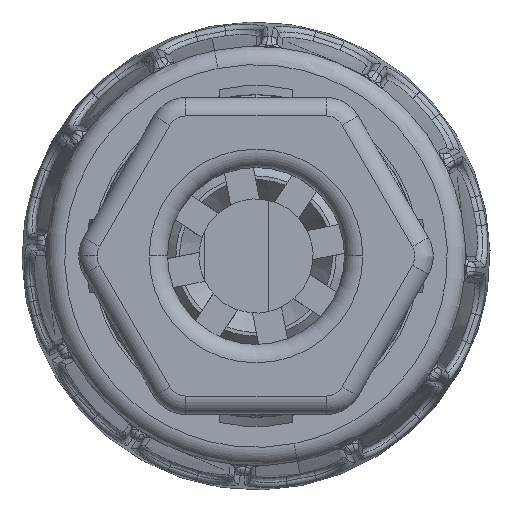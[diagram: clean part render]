
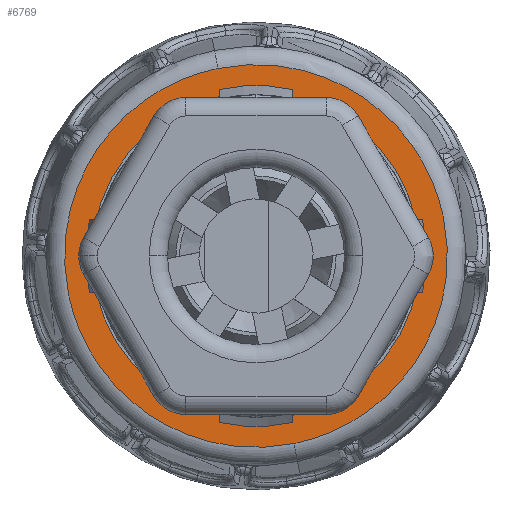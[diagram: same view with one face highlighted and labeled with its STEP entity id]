
A CAD part, left-side view. The second image highlights one B-rep face of the part: STEP entity #6769.
In plain terms, the highlighted planar face has unit normal (-1, 0, 0) as drawn and (0, 0, 1) by its records, which use the part's own axes.
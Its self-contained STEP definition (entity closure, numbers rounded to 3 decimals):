
#1250 = EDGE_LOOP ( 'NONE', ( #34648, #34607, #34660, #34673 ) ) ;
#1260 = EDGE_LOOP ( 'NONE', ( #34687, #34638 ) ) ;
#1729 = FACE_BOUND ( 'NONE', #1260, .T. ) ;
#1736 = FACE_OUTER_BOUND ( 'NONE', #1250, .T. ) ;
#2484 = AXIS2_PLACEMENT_3D ( 'NONE', #2889, #2894, #2895 ) ;
#2889 = CARTESIAN_POINT ( 'NONE',  ( 23.77, 5.16, 22.55 ) ) ;
#2892 = PLANE ( 'NONE',  #2484 ) ;
#2894 = DIRECTION ( 'NONE',  ( 0., 0., 1. ) ) ;
#2895 = DIRECTION ( 'NONE',  ( -0.447, 0.894, 0. ) ) ;
#6769 = ADVANCED_FACE ( 'NONE', ( #1729, #1736 ), #2892, .T. ) ;
#13617 = CIRCLE ( 'NONE', #15535, 8.9 ) ;
#15225 = EDGE_CURVE ( 'NONE', #24184, #24186, #13617, .T. ) ;
#15410 = EDGE_CURVE ( 'NONE', #24400, #24404, #35258, .T. ) ;
#15412 = EDGE_CURVE ( 'NONE', #24404, #24406, #35148, .T. ) ;
#15536 = EDGE_CURVE ( 'NONE', #24186, #24184, #26810, .T. ) ;
#15535 = AXIS2_PLACEMENT_3D ( 'NONE', #23722, #23723, #23724 ) ;
#15538 = EDGE_CURVE ( 'NONE', #24484, #24400, #34738, .T. ) ;
#15540 = EDGE_CURVE ( 'NONE', #24406, #24484, #35199, .T. ) ;
#15711 = AXIS2_PLACEMENT_3D ( 'NONE', #27971, #27972, #27973 ) ;
#23722 = CARTESIAN_POINT ( 'NONE',  ( -7.419, 11.277, 22.55 ) ) ;
#23723 = DIRECTION ( 'NONE',  ( 0., 0., 1. ) ) ;
#23724 = DIRECTION ( 'NONE',  ( 1., 0., 0. ) ) ;
#24184 = VERTEX_POINT ( 'NONE', #40804 ) ;
#24186 = VERTEX_POINT ( 'NONE', #40805 ) ;
#24400 = VERTEX_POINT ( 'NONE', #40920 ) ;
#24404 = VERTEX_POINT ( 'NONE', #40922 ) ;
#24406 = VERTEX_POINT ( 'NONE', #40923 ) ;
#24452 = CARTESIAN_POINT ( 'NONE',  ( -6.06, 21.661, 22.55 ) ) ;
#24481 = CARTESIAN_POINT ( 'NONE',  ( -17.533, 13.995, 22.55 ) ) ;
#24483 = CARTESIAN_POINT ( 'NONE',  ( -17.803, 12.637, 22.55 ) ) ;
#24484 = VERTEX_POINT ( 'NONE', #40965 ) ;
#24485 = CARTESIAN_POINT ( 'NONE',  ( -7.419, 21.661, 22.55 ) ) ;
#24492 = CARTESIAN_POINT ( 'NONE',  ( -17.803, 11.277, 22.55 ) ) ;
#24494 = CARTESIAN_POINT ( 'NONE',  ( -16.492, 16.507, 22.55 ) ) ;
#24496 = CARTESIAN_POINT ( 'NONE',  ( -15.723, 17.659, 22.55 ) ) ;
#24498 = CARTESIAN_POINT ( 'NONE',  ( -13.8, 19.581, 22.55 ) ) ;
#24500 = CARTESIAN_POINT ( 'NONE',  ( -12.649, 20.351, 22.55 ) ) ;
#24502 = CARTESIAN_POINT ( 'NONE',  ( -10.137, 21.391, 22.55 ) ) ;
#24503 = CARTESIAN_POINT ( 'NONE',  ( -8.778, 21.661, 22.55 ) ) ;
#24505 = CARTESIAN_POINT ( 'NONE',  ( -7.419, 21.661, 22.55 ) ) ;
#24512 = CARTESIAN_POINT ( 'NONE',  ( -4.701, 21.391, 22.55 ) ) ;
#24513 = CARTESIAN_POINT ( 'NONE',  ( -2.189, 20.351, 22.55 ) ) ;
#24515 = CARTESIAN_POINT ( 'NONE',  ( -1.038, 19.581, 22.55 ) ) ;
#24517 = CARTESIAN_POINT ( 'NONE',  ( 0.885, 17.659, 22.55 ) ) ;
#24519 = CARTESIAN_POINT ( 'NONE',  ( 1.654, 16.507, 22.55 ) ) ;
#24521 = CARTESIAN_POINT ( 'NONE',  ( 2.695, 13.995, 22.55 ) ) ;
#24523 = CARTESIAN_POINT ( 'NONE',  ( 2.965, 12.637, 22.55 ) ) ;
#24525 = CARTESIAN_POINT ( 'NONE',  ( 2.965, 11.277, 22.55 ) ) ;
#26810 = CIRCLE ( 'NONE', #15711, 8.9 ) ;
#27958 = CARTESIAN_POINT ( 'NONE',  ( 2.965, 9.918, 22.55 ) ) ;
#27968 = CARTESIAN_POINT ( 'NONE',  ( 2.965, 11.277, 22.55 ) ) ;
#27969 = CARTESIAN_POINT ( 'NONE',  ( -7.419, 0.893, 22.55 ) ) ;
#27970 = CARTESIAN_POINT ( 'NONE',  ( -8.778, 0.893, 22.55 ) ) ;
#27971 = CARTESIAN_POINT ( 'NONE',  ( -7.419, 11.277, 22.55 ) ) ;
#27972 = DIRECTION ( 'NONE',  ( 0., 0., 1. ) ) ;
#27973 = DIRECTION ( 'NONE',  ( 1., 0., 0. ) ) ;
#27974 = CARTESIAN_POINT ( 'NONE',  ( -10.137, 1.164, 22.55 ) ) ;
#27975 = CARTESIAN_POINT ( 'NONE',  ( -12.649, 2.204, 22.55 ) ) ;
#27976 = CARTESIAN_POINT ( 'NONE',  ( -13.8, 2.974, 22.55 ) ) ;
#27977 = CARTESIAN_POINT ( 'NONE',  ( -15.723, 4.896, 22.55 ) ) ;
#27978 = CARTESIAN_POINT ( 'NONE',  ( -16.492, 6.048, 22.55 ) ) ;
#27979 = CARTESIAN_POINT ( 'NONE',  ( -17.533, 8.559, 22.55 ) ) ;
#27980 = CARTESIAN_POINT ( 'NONE',  ( -17.803, 9.918, 22.55 ) ) ;
#27981 = CARTESIAN_POINT ( 'NONE',  ( -17.803, 11.277, 22.55 ) ) ;
#27984 = CARTESIAN_POINT ( 'NONE',  ( 2.695, 8.559, 22.55 ) ) ;
#27985 = CARTESIAN_POINT ( 'NONE',  ( 1.654, 6.048, 22.55 ) ) ;
#27986 = CARTESIAN_POINT ( 'NONE',  ( 0.885, 4.896, 22.55 ) ) ;
#27987 = CARTESIAN_POINT ( 'NONE',  ( -1.038, 2.974, 22.55 ) ) ;
#27988 = CARTESIAN_POINT ( 'NONE',  ( -2.189, 2.204, 22.55 ) ) ;
#27989 = CARTESIAN_POINT ( 'NONE',  ( -4.701, 1.164, 22.55 ) ) ;
#27990 = CARTESIAN_POINT ( 'NONE',  ( -6.06, 0.893, 22.55 ) ) ;
#27991 = CARTESIAN_POINT ( 'NONE',  ( -7.419, 0.893, 22.55 ) ) ;
#34607 = ORIENTED_EDGE ( 'NONE', *, *, #15538, .F. ) ;
#34638 = ORIENTED_EDGE ( 'NONE', *, *, #15225, .F. ) ;
#34648 = ORIENTED_EDGE ( 'NONE', *, *, #15410, .F. ) ;
#34660 = ORIENTED_EDGE ( 'NONE', *, *, #15540, .F. ) ;
#34673 = ORIENTED_EDGE ( 'NONE', *, *, #15412, .F. ) ;
#34687 = ORIENTED_EDGE ( 'NONE', *, *, #15536, .F. ) ;
#34738 = B_SPLINE_CURVE_WITH_KNOTS ( 'NONE', 3,
 ( #27969, #27970, #27974, #27975, #27976, #27977, #27978, #27979, #27980, #27981 ),
 .UNSPECIFIED., .F., .F.,
 ( 4, 2, 2, 2, 4 ),
 ( 0., 0.25, 0.5, 0.75, 1. ),
 .UNSPECIFIED. ) ;
#35148 = B_SPLINE_CURVE_WITH_KNOTS ( 'NONE', 3,
 ( #24485, #24452, #24512, #24513, #24515, #24517, #24519, #24521, #24523, #24525 ),
 .UNSPECIFIED., .F., .F.,
 ( 4, 2, 2, 2, 4 ),
 ( 0., 0.25, 0.5, 0.75, 1. ),
 .UNSPECIFIED. ) ;
#35199 = B_SPLINE_CURVE_WITH_KNOTS ( 'NONE', 3,
 ( #27968, #27958, #27984, #27985, #27986, #27987, #27988, #27989, #27990, #27991 ),
 .UNSPECIFIED., .F., .F.,
 ( 4, 2, 2, 2, 4 ),
 ( 0., 0.25, 0.5, 0.75, 1. ),
 .UNSPECIFIED. ) ;
#35258 = B_SPLINE_CURVE_WITH_KNOTS ( 'NONE', 3,
 ( #24492, #24483, #24481, #24494, #24496, #24498, #24500, #24502, #24503, #24505 ),
 .UNSPECIFIED., .F., .F.,
 ( 4, 2, 2, 2, 4 ),
 ( 0., 0.25, 0.5, 0.75, 1. ),
 .UNSPECIFIED. ) ;
#40804 = CARTESIAN_POINT ( 'NONE',  ( -16.319, 11.277, 22.55 ) ) ;
#40805 = CARTESIAN_POINT ( 'NONE',  ( 1.481, 11.277, 22.55 ) ) ;
#40920 = CARTESIAN_POINT ( 'NONE',  ( -17.803, 11.277, 22.55 ) ) ;
#40922 = CARTESIAN_POINT ( 'NONE',  ( -7.419, 21.661, 22.55 ) ) ;
#40923 = CARTESIAN_POINT ( 'NONE',  ( 2.965, 11.277, 22.55 ) ) ;
#40965 = CARTESIAN_POINT ( 'NONE',  ( -7.419, 0.893, 22.55 ) ) ;
